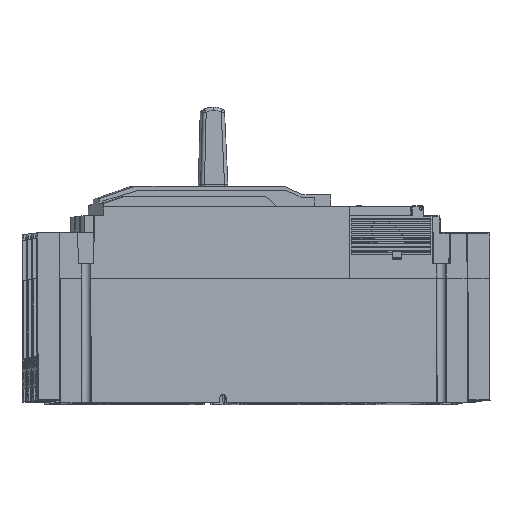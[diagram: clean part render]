
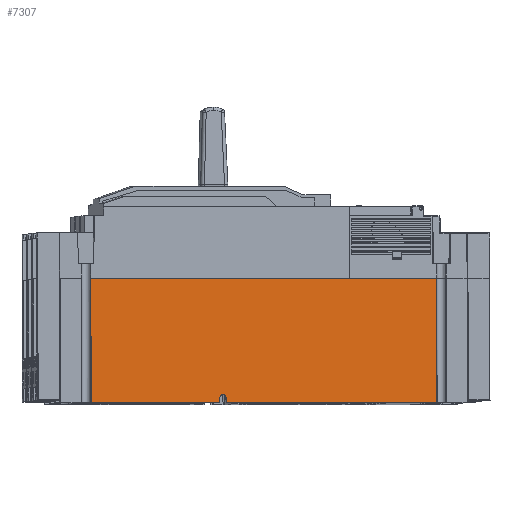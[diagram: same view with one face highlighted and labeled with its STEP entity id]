
A CAD part, left-side view. The second image highlights one B-rep face of the part: STEP entity #7307.
In plain terms, the highlighted planar face has unit normal (-0.998, -0.062, 0.009).
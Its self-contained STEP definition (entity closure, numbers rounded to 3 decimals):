
#7307=ADVANCED_FACE('',(#44550),#44552,.T.);
#44550=FACE_BOUND('',#44551,.T.);
#44551=EDGE_LOOP('',(#101521,#101522,#101523,#101524,#101525,#101526,#101527,#101528));
#44552=PLANE('',#44553);
#44553=AXIS2_PLACEMENT_3D('',#44554,#44555,#44556);
#44554=CARTESIAN_POINT('',(-12.364,116.723,34.939));
#44555=DIRECTION('',(-0.998,-0.062,0.009));
#44556=DIRECTION('',(0.062,-0.998,0.));
#101521=ORIENTED_EDGE('',*,*,#144490,.T.);
#101522=ORIENTED_EDGE('',*,*,#144491,.F.);
#101523=ORIENTED_EDGE('',*,*,#144492,.F.);
#101524=ORIENTED_EDGE('',*,*,#144493,.F.);
#101525=ORIENTED_EDGE('',*,*,#144494,.T.);
#101526=ORIENTED_EDGE('',*,*,#144495,.T.);
#101527=ORIENTED_EDGE('',*,*,#143748,.F.);
#101528=ORIENTED_EDGE('',*,*,#144489,.T.);
#143748=EDGE_CURVE('',#166773,#166775,#166776,.T.);
#144489=EDGE_CURVE('',#166773,#168086,#168088,.T.);
#144490=EDGE_CURVE('',#168086,#168089,#168090,.T.);
#144491=EDGE_CURVE('',#168091,#168089,#168092,.T.);
#144492=EDGE_CURVE('',#168093,#168091,#168094,.T.);
#144493=EDGE_CURVE('',#168095,#168093,#168096,.T.);
#144494=EDGE_CURVE('',#168095,#168097,#168098,.T.);
#144495=EDGE_CURVE('',#168097,#166775,#168099,.T.);
#166773=VERTEX_POINT('',#196274);
#166775=VERTEX_POINT('',#196279);
#166776=LINE('',#196280,#196281);
#168086=VERTEX_POINT('',#199527);
#168088=LINE('',#199532,#199533);
#168089=VERTEX_POINT('',#199535);
#168090=LINE('',#199536,#199537);
#168091=VERTEX_POINT('',#199539);
#168092=LINE('',#199540,#199541);
#168093=VERTEX_POINT('',#199543);
#168094=CIRCLE('',#199544,1.75);
#168095=VERTEX_POINT('',#199548);
#168096=LINE('',#199549,#199550);
#168097=VERTEX_POINT('',#199552);
#168098=LINE('',#199553,#199554);
#168099=LINE('',#199556,#199557);
#196274=CARTESIAN_POINT('',(-9.869,86.621,104.936));
#196279=CARTESIAN_POINT('',(2.276,-107.603,104.936));
#196280=CARTESIAN_POINT('',(-9.869,86.621,104.936));
#196281=VECTOR('',#196282,1.);
#196282=DIRECTION('',(0.062,-0.998,0.));
#199527=CARTESIAN_POINT('',(-10.479,86.583,34.939));
#199532=CARTESIAN_POINT('',(-9.869,86.621,104.936));
#199533=VECTOR('',#199534,1.);
#199534=DIRECTION('',(-0.009,-0.001,-1.));
#199535=CARTESIAN_POINT('',(-5.957,14.273,34.939));
#199536=CARTESIAN_POINT('',(-10.479,86.583,34.939));
#199537=VECTOR('',#199538,1.);
#199538=DIRECTION('',(0.062,-0.998,0.));
#199539=CARTESIAN_POINT('',(-5.926,14.173,37.752));
#199540=CARTESIAN_POINT('',(-5.926,14.173,37.752));
#199541=VECTOR('',#199542,1.);
#199542=DIRECTION('',(-0.011,0.035,-0.999));
#199543=CARTESIAN_POINT('',(-5.708,10.682,37.752));
#199544=AXIS2_PLACEMENT_3D('',#199545,#199546,#199547);
#199545=CARTESIAN_POINT('',(-5.818,12.428,37.689));
#199546=DIRECTION('',(-0.998,-0.062,0.009));
#199547=DIRECTION('',(0.063,-0.997,0.036));
#199548=CARTESIAN_POINT('',(-5.726,10.58,34.939));
#199549=CARTESIAN_POINT('',(-5.726,10.58,34.939));
#199550=VECTOR('',#199551,1.);
#199551=DIRECTION('',(0.006,0.036,0.999));
#199552=CARTESIAN_POINT('',(1.667,-107.641,34.939));
#199553=CARTESIAN_POINT('',(-5.726,10.58,34.939));
#199554=VECTOR('',#199555,1.);
#199555=DIRECTION('',(0.062,-0.998,0.));
#199556=CARTESIAN_POINT('',(1.667,-107.641,34.939));
#199557=VECTOR('',#199558,1.);
#199558=DIRECTION('',(0.009,0.001,1.));
